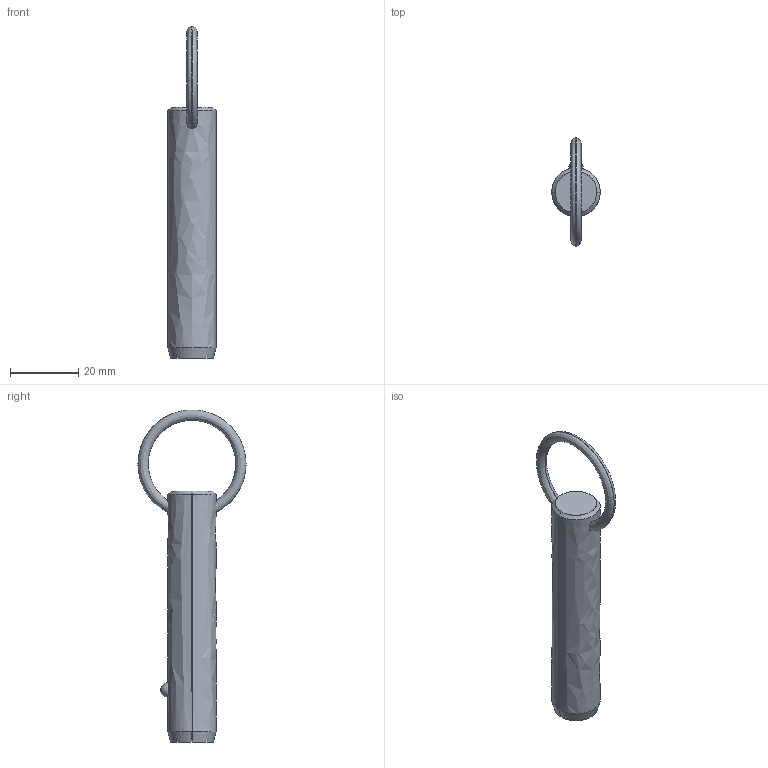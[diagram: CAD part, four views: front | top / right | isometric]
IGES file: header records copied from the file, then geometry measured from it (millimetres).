
Start section: SolidWorks IGES file using analytic representation for surfaces
Global section: file name: C:\Users\liam_\OneDrive\Documents\WORK\Work for WixRoyd\Job Files\J-00019 - Matt Davis CAD Checking\04. CAD Drawings\automotion20190605\P1250.2_v2\P1250.2_v2_20190729_IGES\P1250.056-190.igs; native system: SolidWorks 2017; preprocessor: SolidWorks 2017; author: liam_; date: 190729.231704; units: millimetre
Bounding box: 14.2 x 31.7 x 97.39 mm (x, y, z)
Surface area: 4249.2 mm2 (no closed solid volume)
Topology: 0 solids, 0 shells, 12 faces, 285 edges, 283 vertices
Faces by surface type: revolution 8, bspline 4
